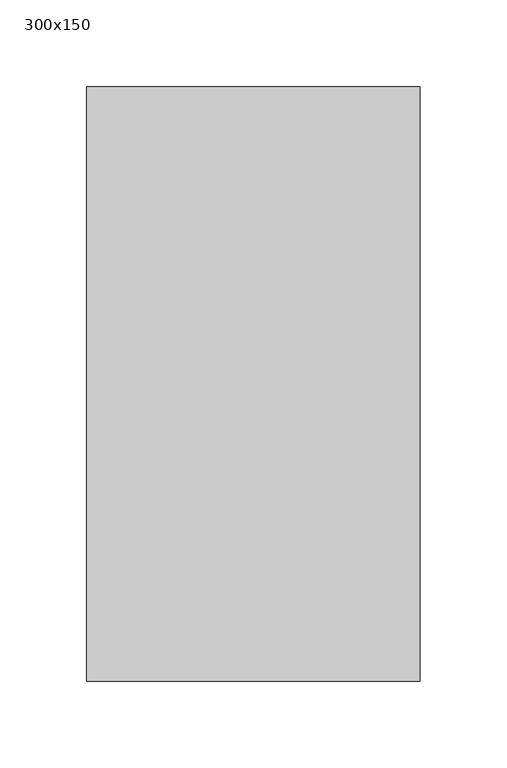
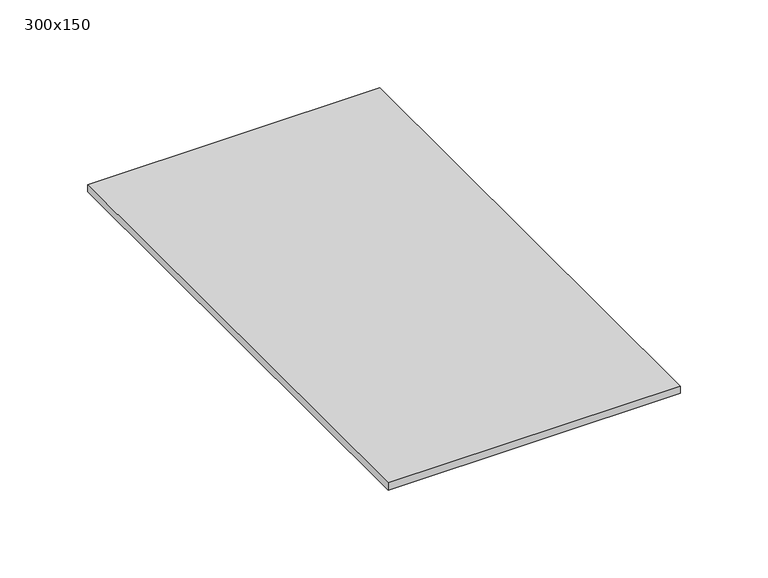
"""IFC4 building model written with IfcOpenShell, lengths in millimetres: air terminal geometry, AI_Bouche aération_Grille de soufflage rectangulaire sur gaine : 300x150."""

import ifcopenshell
import ifcopenshell.guid

model = None  # the IFC model being written
_history = None  # IfcOwnerHistory: only IFC2X3 demands one
_inside = {}  # id of a spatial element -> (the spatial element, [elements in it])
_under = {}  # id of a project, library or spatial element -> (it, [spatial elements below it])
_declared = {}  # id of a project -> (the project, [libraries it declares])
_typed = {}  # id of a type object -> (the type object, [elements of that type])
_made_of = {}  # id of a material, layer set ... -> (it, [elements and type objects made of it])


def new_model(schema):
    """Start an empty IFC model of exactly this schema.

    Asked for "IFC4X3", IfcOpenShell would pick the latest addendum, in which some entities
    have other attributes; the version numbers below select the first issue.
    IFC2X3 requires an IfcOwnerHistory on every rooted entity: one is made here for all.
    """
    global model, _history
    if schema == "IFC4X3":
        model = ifcopenshell.file(schema_version=(4, 3, 0, 0))
    else:
        model = ifcopenshell.file(schema=schema)
    _inside.clear()
    _under.clear()
    _declared.clear()
    _typed.clear()
    _made_of.clear()
    _history = None
    if model.schema == "IFC2X3":
        org = make("IfcOrganization", Name="unknown")
        user = make(
            "IfcPersonAndOrganization",
            ThePerson=make("IfcPerson", FamilyName="unknown"),
            TheOrganization=org,
        )
        app = make(
            "IfcApplication",
            ApplicationDeveloper=org,
            Version="unknown",
            ApplicationFullName="unknown",
            ApplicationIdentifier="unknown",
        )
        _history = make(
            "IfcOwnerHistory",
            OwningUser=user,
            OwningApplication=app,
            ChangeAction="ADDED",
            CreationDate=0,
        )
    return model


def make(cls, **values):
    """One entity of the class cls with the attributes given. An attribute that is None is left unset."""
    return model.create_entity(
        cls, **{name: value for name, value in values.items() if value is not None}
    )


def rooted(cls, **values):
    """An entity with a GlobalId (a new one), such as an element, a storey or a relation."""
    return make(cls, GlobalId=ifcopenshell.guid.new(), OwnerHistory=_history, **values)


def si_unit(unit_type, name, prefix=None):
    """IfcSIUnit, for example si_unit("LENGTHUNIT", "METRE", prefix="MILLI")."""
    return make("IfcSIUnit", UnitType=unit_type, Prefix=prefix, Name=name)


def assignment(units):
    """IfcUnitAssignment: the units of a project."""
    return None if units is None else make("IfcUnitAssignment", Units=units)


def point(xyz):
    """IfcCartesianPoint."""
    return None if xyz is None else make("IfcCartesianPoint", Coordinates=xyz)


def direction(xyz):
    """IfcDirection."""
    return None if xyz is None else make("IfcDirection", DirectionRatios=xyz)


def frame(location, z_axis=None, x_axis=None):
    """IfcAxis2Placement3D, a coordinate frame: its origin and axes. An axis left out is left unset."""
    return make(
        "IfcAxis2Placement3D",
        Location=point(location),
        Axis=direction(z_axis),
        RefDirection=direction(x_axis),
    )


def origin():
    """The frame at (0, 0, 0) with its axes left unset."""
    return frame((0.0, 0.0, 0.0))


def place(relative_to, where):
    """IfcLocalPlacement: puts the frame where relative to a parent placement (None: the world)."""
    return make(
        "IfcLocalPlacement", PlacementRelTo=relative_to, RelativePlacement=where
    )


def context(
    kind, dimensions, precision=None, world=None, true_north=None, identifier=None
):
    """IfcGeometricRepresentationContext, for example the 3D "Model" context."""
    return make(
        "IfcGeometricRepresentationContext",
        ContextIdentifier=identifier,
        ContextType=kind,
        CoordinateSpaceDimension=dimensions,
        Precision=precision,
        WorldCoordinateSystem=world,
        TrueNorth=true_north,
    )


def project(units=None, contexts=None):
    """IfcProject with its units and contexts."""
    return rooted(
        "IfcProject",
        Name="project",
        RepresentationContexts=contexts,
        UnitsInContext=assignment(units),
    )


def spatial(cls, under=None, at=None, **own):
    """A site, building, storey or space (cls), placed at a placement, below another one or the project."""
    s = rooted(cls, ObjectPlacement=at, **own)
    if under is not None:
        _under.setdefault(under.id(), (under, []))[1].append(s)
    return s


def polyline(points):
    """IfcPolyline through the points."""
    return make("IfcPolyline", Points=[point(p) for p in points])


def outline(outer, holes=None, kind="AREA"):
    """IfcArbitraryClosedProfileDef: a profile drawn as a closed curve; with holes, ...WithVoids."""
    if holes is None:
        return make("IfcArbitraryClosedProfileDef", ProfileType=kind, OuterCurve=outer)
    return make(
        "IfcArbitraryProfileDefWithVoids",
        ProfileType=kind,
        OuterCurve=outer,
        InnerCurves=holes,
    )


def extrude(swept, where, along, depth):
    """IfcExtrudedAreaSolid: the profile swept, set in the frame where, extruded along a direction by depth."""
    return make(
        "IfcExtrudedAreaSolid",
        SweptArea=swept,
        Position=where,
        ExtrudedDirection=direction(along),
        Depth=depth,
    )


def shape(context_of_items, identifier, shape_type, items):
    """IfcShapeRepresentation: the items that make up one representation, for example the "Body"."""
    return make(
        "IfcShapeRepresentation",
        ContextOfItems=context_of_items,
        RepresentationIdentifier=identifier,
        RepresentationType=shape_type,
        Items=items,
    )


def source(mapping_origin, context_of_items, identifier, shape_type, items):
    """IfcRepresentationMap: a shape defined once, which mapped items show again and again."""
    return make(
        "IfcRepresentationMap",
        MappingOrigin=mapping_origin,
        MappedRepresentation=shape(context_of_items, identifier, shape_type, items),
    )


def transform(
    local_origin,
    x_axis=None,
    y_axis=None,
    z_axis=None,
    scale=None,
    scale2=None,
    scale3=None,
    uniform=True,
):
    """IfcCartesianTransformationOperator3D, or its non-uniform kind. x_axis, y_axis, z_axis: its Axis1, 2, 3."""
    if uniform:
        return make(
            "IfcCartesianTransformationOperator3D",
            Axis1=direction(x_axis),
            Axis2=direction(y_axis),
            LocalOrigin=point(local_origin),
            Scale=scale,
            Axis3=direction(z_axis),
        )
    return make(
        "IfcCartesianTransformationOperator3DnonUniform",
        Axis1=direction(x_axis),
        Axis2=direction(y_axis),
        LocalOrigin=point(local_origin),
        Scale=scale,
        Axis3=direction(z_axis),
        Scale2=scale2,
        Scale3=scale3,
    )


def mapped(mapping_source, mapping_target):
    """IfcMappedItem: shows the shape of a source again, moved by a transform."""
    return make(
        "IfcMappedItem", MappingSource=mapping_source, MappingTarget=mapping_target
    )


def made_of(thing, what):
    """Note that an element or type object is made of a material, layer set ...; save() writes the relation."""
    if what is not None:
        _made_of.setdefault(what.id(), (what, []))[1].append(thing)
    return thing


def element(
    cls,
    number,
    at=None,
    inside=None,
    cuts=None,
    type_object=None,
    material=None,
    context=None,
    identifier="Body",
    shape_type=None,
    held_by="IfcProductDefinitionShape",
    body=None,
    shapes=None,
    **own,
):
    """One element of the class cls, such as IfcWall. Its Tag is "e" and its number.

    at: its placement. inside: the storey or other place that contains it. cuts: it is an
    opening in that element (IfcRelVoidsElement). A single representation is given by context,
    identifier, shape_type and body (its items); several are given by shapes. held_by: the class
    of the entity that holds the representations. save() writes the other relations.
    """
    e = rooted(cls, Tag="e%d" % number, ObjectPlacement=at, **own)
    if body is not None:
        shapes = [shape(context, identifier, shape_type, body)]
    if shapes is not None:
        e.Representation = make(held_by, Representations=shapes)
    if inside is not None:
        _inside.setdefault(inside.id(), (inside, []))[1].append(e)
    if cuts is not None:
        rooted(
            "IfcRelVoidsElement", RelatingBuildingElement=cuts, RelatedOpeningElement=e
        )
    if type_object is not None:
        _typed.setdefault(type_object.id(), (type_object, []))[1].append(e)
    return made_of(e, material)


def aggregate(whole, parts):
    """IfcRelAggregates: a whole, such as a stair, and the parts it consists of."""
    return rooted("IfcRelAggregates", RelatingObject=whole, RelatedObjects=parts)


def save(model, path):
    """Write the relations noted so far, then the file.

    IfcRelAggregates (storeys below a building ...), IfcRelContainedInSpatialStructure (elements
    in a storey), IfcRelDefinesByType, IfcRelAssociatesMaterial and IfcRelDeclares: one each for
    every whole, place, type object, material and project.
    """
    for whole, parts in _under.values():
        aggregate(whole, parts)
    for where, things in _inside.values():
        rooted(
            "IfcRelContainedInSpatialStructure",
            RelatedElements=things,
            RelatingStructure=where,
        )
    for kind, things in _typed.values():
        rooted("IfcRelDefinesByType", RelatedObjects=things, RelatingType=kind)
    for what, things in _made_of.values():
        rooted("IfcRelAssociatesMaterial", RelatedObjects=things, RelatingMaterial=what)
    for by, libraries in _declared.values():
        rooted("IfcRelDeclares", RelatingContext=by, RelatedDefinitions=libraries)
    model.write(path)


def air_terminal_300x150_ce1732d7(model_context):
    return source(origin(), model_context, "Body", "SweptSolid", [
        extrude(outline(polyline([(96.0, 171.0), (96.0, -171.0), (-96.0, -171.0), (-96.0, 171.0), (96.0, 171.0)])), frame((0.0, 0.0, -5.0), z_axis=(0.0, 0.0, 1.0), x_axis=(1.0, 0.0, 0.0)), (0.0, 0.0, 1.0), 5.0),
    ])


if __name__ == "__main__":
    model = new_model("IFC4")
    model_context = context("Model", 3, world=origin())
    ifc_project = project(units=[si_unit("LENGTHUNIT", "METRE", prefix="MILLI")], contexts=[model_context])
    site = spatial("IfcSite", under=ifc_project)
    building = spatial("IfcBuilding", under=site)
    placement = place(None, origin())
    air_terminal_300x150_shape = air_terminal_300x150_ce1732d7(model_context)
    element("IfcAirTerminal", 1, ObjectType="AI_Bouche aération_Grille de soufflage rectangulaire sur gaine : 300x150", at=placement, inside=building, context=model_context, shape_type="MappedRepresentation", body=[
        mapped(air_terminal_300x150_shape, transform((0.0, 0.0, 0.0), x_axis=(1.0, 0.0, 0.0), y_axis=(0.0, 1.0, 0.0), z_axis=(0.0, 0.0, 1.0))),
    ])
    save(model, "model.ifc")
